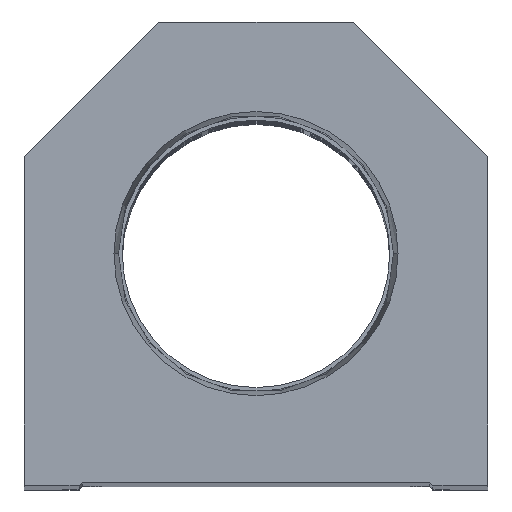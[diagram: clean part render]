
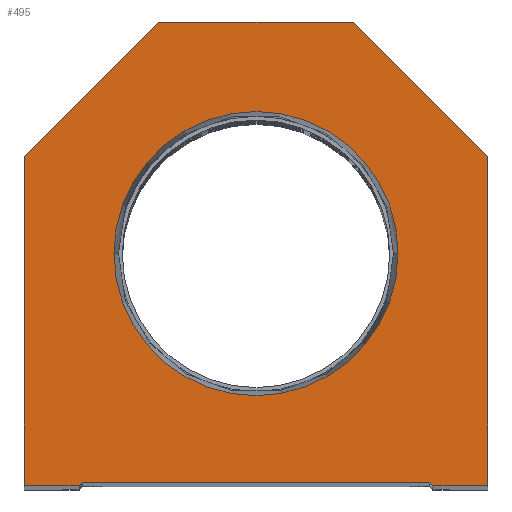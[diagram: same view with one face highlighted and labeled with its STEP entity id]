
A CAD part, top view. The second image highlights one B-rep face of the part: STEP entity #495.
In plain terms, the highlighted planar face has unit normal (0, 0, 1).
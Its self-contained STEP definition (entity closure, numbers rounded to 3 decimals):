
#150 = EDGE_CURVE ( 'NONE', #14252, #6140, #6018, .T. ) ;
#247 = CARTESIAN_POINT ( 'NONE',  ( -38.1, 54.1, 0. ) ) ;
#253 = VERTEX_POINT ( 'NONE', #14086 ) ;
#495 = ADVANCED_FACE ( 'NONE', ( #1767, #6671 ), #17605, .T. ) ;
#1061 = VECTOR ( 'NONE', #1378, 1000. ) ;
#1109 = VERTEX_POINT ( 'NONE', #12419 ) ;
#1378 = DIRECTION ( 'NONE',  ( 0., 1., 0. ) ) ;
#1495 = CARTESIAN_POINT ( 'NONE',  ( 38.1, 0., 0. ) ) ;
#1577 = CARTESIAN_POINT ( 'NONE',  ( 28.6, 0.5, 0. ) ) ;
#1599 = CARTESIAN_POINT ( 'NONE',  ( -28.6, 0.5, 0. ) ) ;
#1602 = LINE ( 'NONE', #1495, #1061 ) ;
#1712 = EDGE_CURVE ( 'NONE', #10994, #3421, #15615, .T. ) ;
#1767 = FACE_BOUND ( 'NONE', #12647, .T. ) ;
#2380 = CARTESIAN_POINT ( 'NONE',  ( 28.6, 0., 0. ) ) ;
#2774 = VECTOR ( 'NONE', #8734, 1000. ) ;
#3219 = EDGE_CURVE ( 'NONE', #8324, #13394, #18127, .T. ) ;
#3274 = CARTESIAN_POINT ( 'NONE',  ( -38.1, 0., 0. ) ) ;
#3289 = DIRECTION ( 'NONE',  ( -1., 0., 0. ) ) ;
#3421 = VERTEX_POINT ( 'NONE', #20397 ) ;
#3608 = LINE ( 'NONE', #3274, #2774 ) ;
#3661 = CARTESIAN_POINT ( 'NONE',  ( 0., 38.1, 0. ) ) ;
#3769 = DIRECTION ( 'NONE',  ( 0., 0., 1. ) ) ;
#3993 = CARTESIAN_POINT ( 'NONE',  ( -38.1, 54.1, 0. ) ) ;
#4116 = VERTEX_POINT ( 'NONE', #7649 ) ;
#4221 = VECTOR ( 'NONE', #7612, 1000. ) ;
#4258 = DIRECTION ( 'NONE',  ( 1., 0., 0. ) ) ;
#4413 = VECTOR ( 'NONE', #5900, 1000. ) ;
#4845 = EDGE_CURVE ( 'NONE', #21907, #8324, #11034, .T. ) ;
#5226 = EDGE_CURVE ( 'NONE', #3421, #10994, #8084, .T. ) ;
#5717 = LINE ( 'NONE', #14497, #15651 ) ;
#5900 = DIRECTION ( 'NONE',  ( -0.707, -0.707, 0. ) ) ;
#6018 = LINE ( 'NONE', #3993, #4413 ) ;
#6046 = CARTESIAN_POINT ( 'NONE',  ( -28.6, 0.5, 0. ) ) ;
#6112 = DIRECTION ( 'NONE',  ( -0.707, 0.707, 0. ) ) ;
#6140 = VERTEX_POINT ( 'NONE', #247 ) ;
#6615 = ORIENTED_EDGE ( 'NONE', *, *, #4845, .T. ) ;
#6671 = FACE_OUTER_BOUND ( 'NONE', #16611, .T. ) ;
#7339 = DIRECTION ( 'NONE',  ( 0., 0., 1. ) ) ;
#7353 = EDGE_CURVE ( 'NONE', #13394, #253, #19268, .T. ) ;
#7612 = DIRECTION ( 'NONE',  ( 1., 0., 0. ) ) ;
#7649 = CARTESIAN_POINT ( 'NONE',  ( -38.1, 0., 0. ) ) ;
#8084 = CIRCLE ( 'NONE', #15724, 23.374 ) ;
#8324 = VERTEX_POINT ( 'NONE', #1599 ) ;
#8326 = ORIENTED_EDGE ( 'NONE', *, *, #21231, .T. ) ;
#8699 = AXIS2_PLACEMENT_3D ( 'NONE', #19973, #7339, #4258 ) ;
#8734 = DIRECTION ( 'NONE',  ( 0., -1., 0. ) ) ;
#8783 = VECTOR ( 'NONE', #17690, 1000. ) ;
#8995 = ORIENTED_EDGE ( 'NONE', *, *, #3219, .T. ) ;
#9098 = EDGE_CURVE ( 'NONE', #12867, #1109, #14646, .T. ) ;
#9118 = DIRECTION ( 'NONE',  ( 1., 0., 0. ) ) ;
#9406 = CARTESIAN_POINT ( 'NONE',  ( 38.1, 54.1, 0. ) ) ;
#9517 = ORIENTED_EDGE ( 'NONE', *, *, #14266, .T. ) ;
#9881 = LINE ( 'NONE', #22081, #11219 ) ;
#10276 = CARTESIAN_POINT ( 'NONE',  ( -29.1, 0., 0. ) ) ;
#10301 = DIRECTION ( 'NONE',  ( 0., 0., 1. ) ) ;
#10646 = CARTESIAN_POINT ( 'NONE',  ( 0., 0., 0. ) ) ;
#10697 = VECTOR ( 'NONE', #21066, 1000. ) ;
#10994 = VERTEX_POINT ( 'NONE', #13762 ) ;
#11034 = LINE ( 'NONE', #11154, #15395 ) ;
#11154 = CARTESIAN_POINT ( 'NONE',  ( -14.55, 14.55, 0. ) ) ;
#11219 = VECTOR ( 'NONE', #3289, 1000. ) ;
#11717 = EDGE_CURVE ( 'NONE', #253, #16950, #16295, .T. ) ;
#11746 = CARTESIAN_POINT ( 'NONE',  ( -16., 76.2, 0. ) ) ;
#12419 = CARTESIAN_POINT ( 'NONE',  ( 16., 76.2, 0. ) ) ;
#12647 = EDGE_LOOP ( 'NONE', ( #20131, #20275 ) ) ;
#12867 = VERTEX_POINT ( 'NONE', #15535 ) ;
#13394 = VERTEX_POINT ( 'NONE', #1577 ) ;
#13673 = VECTOR ( 'NONE', #6112, 1000. ) ;
#13762 = CARTESIAN_POINT ( 'NONE',  ( 23.374, 38.1, 0. ) ) ;
#13774 = CARTESIAN_POINT ( 'NONE',  ( 14.55, 14.55, 0. ) ) ;
#14079 = ORIENTED_EDGE ( 'NONE', *, *, #11717, .T. ) ;
#14086 = CARTESIAN_POINT ( 'NONE',  ( 29.1, 0., 0. ) ) ;
#14252 = VERTEX_POINT ( 'NONE', #11746 ) ;
#14266 = EDGE_CURVE ( 'NONE', #16950, #12867, #1602, .T. ) ;
#14334 = ORIENTED_EDGE ( 'NONE', *, *, #15672, .T. ) ;
#14379 = CARTESIAN_POINT ( 'NONE',  ( 38.1, 0., 0. ) ) ;
#14497 = CARTESIAN_POINT ( 'NONE',  ( -28.6, 0., 0. ) ) ;
#14646 = LINE ( 'NONE', #9406, #13673 ) ;
#15272 = EDGE_CURVE ( 'NONE', #4116, #21907, #5717, .T. ) ;
#15395 = VECTOR ( 'NONE', #17989, 1000. ) ;
#15535 = CARTESIAN_POINT ( 'NONE',  ( 38.1, 54.1, 0. ) ) ;
#15615 = CIRCLE ( 'NONE', #8699, 23.374 ) ;
#15651 = VECTOR ( 'NONE', #15769, 1000. ) ;
#15672 = EDGE_CURVE ( 'NONE', #6140, #4116, #3608, .T. ) ;
#15724 = AXIS2_PLACEMENT_3D ( 'NONE', #3661, #3769, #9118 ) ;
#15769 = DIRECTION ( 'NONE',  ( 1., 0., 0. ) ) ;
#16295 = LINE ( 'NONE', #2380, #4221 ) ;
#16518 = ORIENTED_EDGE ( 'NONE', *, *, #9098, .T. ) ;
#16611 = EDGE_LOOP ( 'NONE', ( #19974, #6615, #8995, #17251, #14079, #9517, #16518, #8326, #20057, #14334 ) ) ;
#16950 = VERTEX_POINT ( 'NONE', #14379 ) ;
#17251 = ORIENTED_EDGE ( 'NONE', *, *, #7353, .T. ) ;
#17386 = DIRECTION ( 'NONE',  ( 1., 0., 0. ) ) ;
#17605 = PLANE ( 'NONE',  #18747 ) ;
#17690 = DIRECTION ( 'NONE',  ( 1., 0., 0. ) ) ;
#17989 = DIRECTION ( 'NONE',  ( 0.707, 0.707, 0. ) ) ;
#18127 = LINE ( 'NONE', #6046, #8783 ) ;
#18747 = AXIS2_PLACEMENT_3D ( 'NONE', #10646, #10301, #17386 ) ;
#19268 = LINE ( 'NONE', #13774, #10697 ) ;
#19973 = CARTESIAN_POINT ( 'NONE',  ( 0., 38.1, 0. ) ) ;
#19974 = ORIENTED_EDGE ( 'NONE', *, *, #15272, .T. ) ;
#20057 = ORIENTED_EDGE ( 'NONE', *, *, #150, .T. ) ;
#20131 = ORIENTED_EDGE ( 'NONE', *, *, #1712, .F. ) ;
#20275 = ORIENTED_EDGE ( 'NONE', *, *, #5226, .F. ) ;
#20397 = CARTESIAN_POINT ( 'NONE',  ( -23.374, 38.1, 0. ) ) ;
#21066 = DIRECTION ( 'NONE',  ( 0.707, -0.707, 0. ) ) ;
#21231 = EDGE_CURVE ( 'NONE', #1109, #14252, #9881, .T. ) ;
#21907 = VERTEX_POINT ( 'NONE', #10276 ) ;
#22081 = CARTESIAN_POINT ( 'NONE',  ( 16., 76.2, 0. ) ) ;
